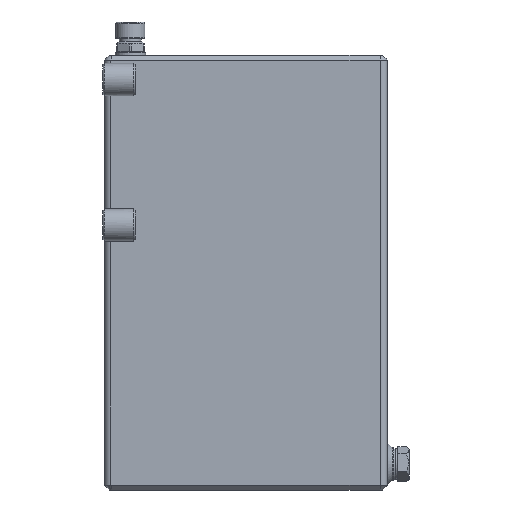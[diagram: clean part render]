
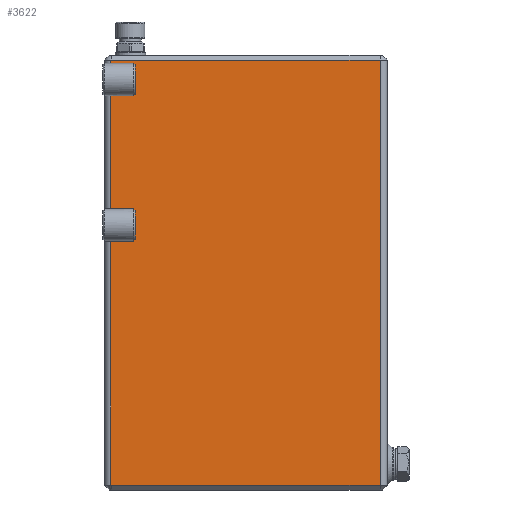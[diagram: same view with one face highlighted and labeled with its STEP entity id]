
A CAD part, left-side view. The second image highlights one B-rep face of the part: STEP entity #3622.
In plain terms, the highlighted planar face has unit normal (-1, 0, 0).
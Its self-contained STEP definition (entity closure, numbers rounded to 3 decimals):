
#54=LINE('',#7618,#271);
#59=LINE('',#7628,#276);
#60=LINE('',#7630,#277);
#62=LINE('',#7634,#279);
#64=LINE('',#7638,#281);
#67=LINE('',#7644,#284);
#68=LINE('',#7646,#285);
#70=LINE('',#7650,#287);
#72=LINE('',#7654,#289);
#93=LINE('',#7698,#310);
#94=LINE('',#7700,#311);
#114=LINE('',#7785,#331);
#116=LINE('',#7788,#333);
#117=LINE('',#7790,#334);
#118=LINE('',#7791,#335);
#119=LINE('',#7793,#336);
#120=LINE('',#7794,#337);
#121=LINE('',#7796,#338);
#271=VECTOR('',#6466,1000.);
#276=VECTOR('',#6473,1000.);
#277=VECTOR('',#6476,1000.);
#279=VECTOR('',#6480,1000.);
#281=VECTOR('',#6484,1000.);
#284=VECTOR('',#6489,1000.);
#285=VECTOR('',#6492,1000.);
#287=VECTOR('',#6496,1000.);
#289=VECTOR('',#6500,1000.);
#310=VECTOR('',#6543,1000.);
#311=VECTOR('',#6546,1000.);
#331=VECTOR('',#6652,1000.);
#333=VECTOR('',#6656,1000.);
#334=VECTOR('',#6657,1000.);
#335=VECTOR('',#6658,1000.);
#336=VECTOR('',#6659,1000.);
#337=VECTOR('',#6660,1000.);
#338=VECTOR('',#6661,1000.);
#1015=ORIENTED_EDGE('',*,*,#1762,.T.);
#1016=ORIENTED_EDGE('',*,*,#1699,.T.);
#1017=ORIENTED_EDGE('',*,*,#1697,.T.);
#1018=ORIENTED_EDGE('',*,*,#1695,.T.);
#1019=ORIENTED_EDGE('',*,*,#1694,.T.);
#1020=ORIENTED_EDGE('',*,*,#1763,.T.);
#1021=ORIENTED_EDGE('',*,*,#1691,.T.);
#1022=ORIENTED_EDGE('',*,*,#1689,.T.);
#1023=ORIENTED_EDGE('',*,*,#1687,.T.);
#1024=ORIENTED_EDGE('',*,*,#1686,.T.);
#1025=ORIENTED_EDGE('',*,*,#1764,.T.);
#1026=ORIENTED_EDGE('',*,*,#1765,.F.);
#1027=ORIENTED_EDGE('',*,*,#1681,.F.);
#1028=ORIENTED_EDGE('',*,*,#1721,.F.);
#1029=ORIENTED_EDGE('',*,*,#1722,.T.);
#1030=ORIENTED_EDGE('',*,*,#1760,.F.);
#1031=ORIENTED_EDGE('',*,*,#1766,.F.);
#1032=ORIENTED_EDGE('',*,*,#1767,.F.);
#1681=EDGE_CURVE('',#2116,#2127,#54,.T.);
#1686=EDGE_CURVE('',#2129,#2130,#59,.T.);
#1687=EDGE_CURVE('',#2086,#2129,#60,.T.);
#1689=EDGE_CURVE('',#2131,#2086,#62,.T.);
#1691=EDGE_CURVE('',#2132,#2131,#64,.T.);
#1694=EDGE_CURVE('',#2133,#2134,#67,.T.);
#1695=EDGE_CURVE('',#2089,#2133,#68,.T.);
#1697=EDGE_CURVE('',#2135,#2089,#70,.T.);
#1699=EDGE_CURVE('',#2136,#2135,#72,.T.);
#1721=EDGE_CURVE('',#2148,#2116,#93,.T.);
#1722=EDGE_CURVE('',#2148,#2149,#94,.T.);
#1760=EDGE_CURVE('',#2169,#2149,#114,.T.);
#1762=EDGE_CURVE('',#2171,#2136,#116,.T.);
#1763=EDGE_CURVE('',#2134,#2132,#117,.T.);
#1764=EDGE_CURVE('',#2130,#2172,#118,.T.);
#1765=EDGE_CURVE('',#2127,#2172,#119,.T.);
#1766=EDGE_CURVE('',#2173,#2169,#120,.T.);
#1767=EDGE_CURVE('',#2171,#2173,#121,.T.);
#2086=VERTEX_POINT('',#7512);
#2089=VERTEX_POINT('',#7519);
#2116=VERTEX_POINT('',#7590);
#2127=VERTEX_POINT('',#7619);
#2129=VERTEX_POINT('',#7625);
#2130=VERTEX_POINT('',#7627);
#2131=VERTEX_POINT('',#7633);
#2132=VERTEX_POINT('',#7637);
#2133=VERTEX_POINT('',#7641);
#2134=VERTEX_POINT('',#7643);
#2135=VERTEX_POINT('',#7649);
#2136=VERTEX_POINT('',#7653);
#2148=VERTEX_POINT('',#7697);
#2149=VERTEX_POINT('',#7701);
#2169=VERTEX_POINT('',#7783);
#2171=VERTEX_POINT('',#7789);
#2172=VERTEX_POINT('',#7792);
#2173=VERTEX_POINT('',#7795);
#2790=EDGE_LOOP('',(#1015,#1016,#1017,#1018,#1019,#1020,#1021,#1022,#1023,
#1024,#1025,#1026,#1027,#1028,#1029,#1030,#1031,#1032));
#3188=FACE_BOUND('',#2790,.T.);
#3421=PLANE('',#5788);
#3622=ADVANCED_FACE('',(#3188),#3421,.F.);
#5788=AXIS2_PLACEMENT_3D('',#7787,#6654,#6655);
#6466=DIRECTION('',(0.,1.,0.));
#6473=DIRECTION('',(0.,1.,0.));
#6476=DIRECTION('',(0.,0.,-1.));
#6480=DIRECTION('',(0.,0.,-1.));
#6484=DIRECTION('',(0.,-1.,0.));
#6489=DIRECTION('',(0.,1.,0.));
#6492=DIRECTION('',(0.,0.,-1.));
#6496=DIRECTION('',(0.,0.,-1.));
#6500=DIRECTION('',(0.,-1.,0.));
#6543=DIRECTION('',(0.,1.,0.));
#6546=DIRECTION('',(0.,0.,1.));
#6652=DIRECTION('',(0.,-1.,0.));
#6654=DIRECTION('',(1.,0.,0.));
#6655=DIRECTION('',(0.,1.,0.));
#6656=DIRECTION('',(0.,0.,-1.));
#6657=DIRECTION('',(0.,0.,-1.));
#6658=DIRECTION('',(0.,0.,-1.));
#6659=DIRECTION('',(0.,1.,0.));
#6660=DIRECTION('',(0.,-1.,0.));
#6661=DIRECTION('',(0.,-1.,0.));
#7512=CARTESIAN_POINT('',(-87.5,69.5,164.));
#7519=CARTESIAN_POINT('',(-87.5,69.5,254.));
#7590=CARTESIAN_POINT('',(-87.5,-83.,3.));
#7618=CARTESIAN_POINT('',(-87.5,-87.5,3.));
#7619=CARTESIAN_POINT('',(-87.5,83.,3.));
#7625=CARTESIAN_POINT('',(-87.5,69.5,158.));
#7627=CARTESIAN_POINT('',(-87.5,83.5,158.));
#7628=CARTESIAN_POINT('',(-87.5,69.5,158.));
#7630=CARTESIAN_POINT('',(-87.5,69.5,134.5));
#7633=CARTESIAN_POINT('',(-87.5,69.5,170.));
#7634=CARTESIAN_POINT('',(-87.5,69.5,134.5));
#7637=CARTESIAN_POINT('',(-87.5,83.5,170.));
#7638=CARTESIAN_POINT('',(-87.5,83.5,170.));
#7641=CARTESIAN_POINT('',(-87.5,69.5,248.));
#7643=CARTESIAN_POINT('',(-87.5,83.5,248.));
#7644=CARTESIAN_POINT('',(-87.5,69.5,248.));
#7646=CARTESIAN_POINT('',(-87.5,69.5,134.5));
#7649=CARTESIAN_POINT('',(-87.5,69.5,260.));
#7650=CARTESIAN_POINT('',(-87.5,69.5,134.5));
#7653=CARTESIAN_POINT('',(-87.5,83.5,260.));
#7654=CARTESIAN_POINT('',(-87.5,83.5,260.));
#7697=CARTESIAN_POINT('',(-87.5,-83.5,3.));
#7698=CARTESIAN_POINT('',(-87.5,-87.5,3.));
#7700=CARTESIAN_POINT('',(-87.5,-83.5,3.));
#7701=CARTESIAN_POINT('',(-87.5,-83.5,266.));
#7783=CARTESIAN_POINT('',(-87.5,-83.,266.));
#7785=CARTESIAN_POINT('',(-87.5,87.5,266.));
#7787=CARTESIAN_POINT('',(-87.5,0.,134.5));
#7788=CARTESIAN_POINT('',(-87.5,83.5,266.));
#7789=CARTESIAN_POINT('',(-87.5,83.5,266.));
#7790=CARTESIAN_POINT('',(-87.5,83.5,266.));
#7791=CARTESIAN_POINT('',(-87.5,83.5,266.));
#7792=CARTESIAN_POINT('',(-87.5,83.5,3.));
#7793=CARTESIAN_POINT('',(-87.5,-87.5,3.));
#7794=CARTESIAN_POINT('',(-87.5,87.5,266.));
#7795=CARTESIAN_POINT('',(-87.5,83.,266.));
#7796=CARTESIAN_POINT('',(-87.5,87.5,266.));
